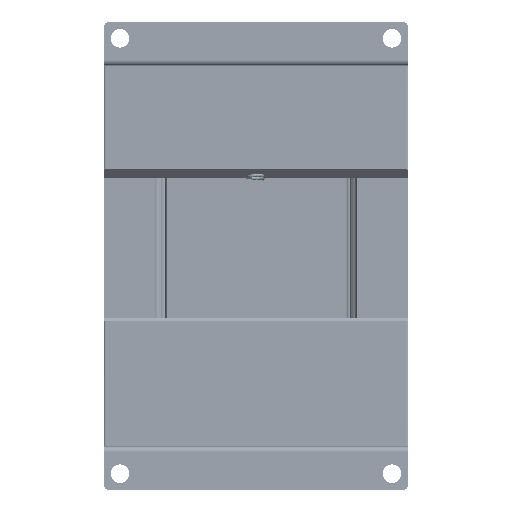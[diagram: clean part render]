
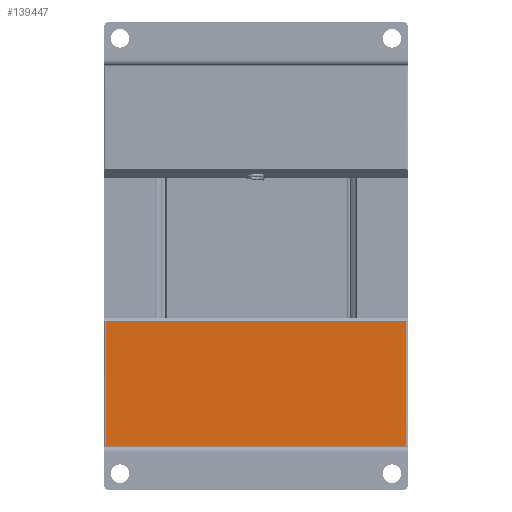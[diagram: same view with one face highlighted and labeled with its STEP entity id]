
A CAD part, front view. The second image highlights one B-rep face of the part: STEP entity #139447.
In plain terms, the highlighted planar face has unit normal (0, -1, 0).
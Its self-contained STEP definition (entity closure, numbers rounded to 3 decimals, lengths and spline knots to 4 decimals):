
#14775=FACE_OUTER_BOUND('',#22381,.T.);
#22381=EDGE_LOOP('',(#124364,#124365,#124366,#124367));
#38169=LINE('',#241091,#53935);
#38286=LINE('',#241885,#54052);
#38297=LINE('',#241915,#54063);
#38305=LINE('',#241929,#54071);
#53935=VECTOR('',#184149,0.3937);
#54052=VECTOR('',#184880,0.3937);
#54063=VECTOR('',#184913,0.3937);
#54071=VECTOR('',#184927,0.3937);
#66751=VERTEX_POINT('',#241088);
#66752=VERTEX_POINT('',#241090);
#67121=VERTEX_POINT('',#241882);
#67122=VERTEX_POINT('',#241884);
#86000=EDGE_CURVE('',#66751,#66752,#38169,.T.);
#86396=EDGE_CURVE('',#67122,#67121,#38286,.T.);
#86413=EDGE_CURVE('',#67122,#66751,#38297,.T.);
#86421=EDGE_CURVE('',#66752,#67121,#38305,.T.);
#124364=ORIENTED_EDGE('',*,*,#86396,.T.);
#124365=ORIENTED_EDGE('',*,*,#86421,.F.);
#124366=ORIENTED_EDGE('',*,*,#86000,.F.);
#124367=ORIENTED_EDGE('',*,*,#86413,.F.);
#132762=PLANE('',#150057);
#139447=ADVANCED_FACE('',(#14775),#132762,.T.);
#150057=AXIS2_PLACEMENT_3D('',#241928,#184925,#184926);
#184149=DIRECTION('',(1.,0.,0.));
#184880=DIRECTION('',(1.,0.,0.));
#184913=DIRECTION('',(0.,0.,1.));
#184925=DIRECTION('center_axis',(0.,-1.,0.));
#184926=DIRECTION('ref_axis',(1.,0.,0.));
#184927=DIRECTION('',(0.,0.,-1.));
#241088=CARTESIAN_POINT('',(0.02,0.,3.5));
#241090=CARTESIAN_POINT('',(2.78,0.,3.5));
#241091=CARTESIAN_POINT('',(0.,0.,3.5));
#241882=CARTESIAN_POINT('',(2.78,0.,2.351));
#241884=CARTESIAN_POINT('',(0.02,0.,2.351));
#241885=CARTESIAN_POINT('',(0.,0.,2.351));
#241915=CARTESIAN_POINT('',(0.02,0.,0.));
#241928=CARTESIAN_POINT('Origin',(0.,0.,0.));
#241929=CARTESIAN_POINT('',(2.78,0.,0.));
